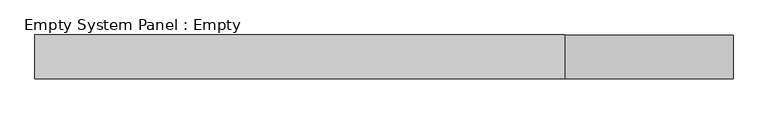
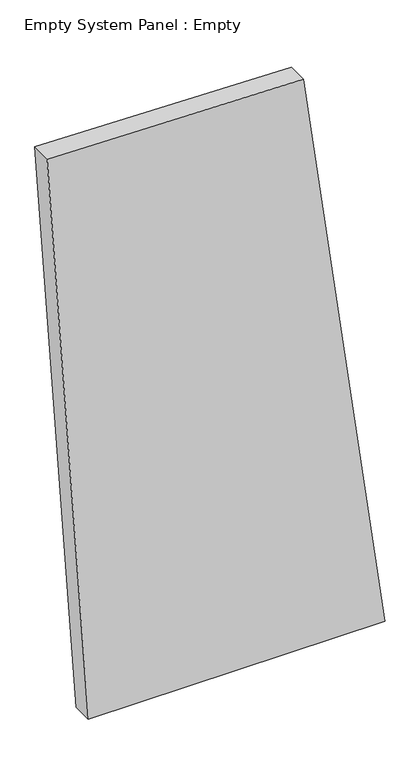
"""IFC4 building model written with IfcOpenShell, lengths in millimetres: plate geometry, Empty System Panel : Empty."""

import ifcopenshell
import ifcopenshell.guid

model = None  # the IFC model being written
_history = None  # IfcOwnerHistory: only IFC2X3 demands one
_inside = {}  # id of a spatial element -> (the spatial element, [elements in it])
_under = {}  # id of a project, library or spatial element -> (it, [spatial elements below it])
_declared = {}  # id of a project -> (the project, [libraries it declares])
_typed = {}  # id of a type object -> (the type object, [elements of that type])
_made_of = {}  # id of a material, layer set ... -> (it, [elements and type objects made of it])


def new_model(schema):
    """Start an empty IFC model of exactly this schema.

    Asked for "IFC4X3", IfcOpenShell would pick the latest addendum, in which some entities
    have other attributes; the version numbers below select the first issue.
    IFC2X3 requires an IfcOwnerHistory on every rooted entity: one is made here for all.
    """
    global model, _history
    if schema == "IFC4X3":
        model = ifcopenshell.file(schema_version=(4, 3, 0, 0))
    else:
        model = ifcopenshell.file(schema=schema)
    _inside.clear()
    _under.clear()
    _declared.clear()
    _typed.clear()
    _made_of.clear()
    _history = None
    if model.schema == "IFC2X3":
        org = make("IfcOrganization", Name="unknown")
        user = make(
            "IfcPersonAndOrganization",
            ThePerson=make("IfcPerson", FamilyName="unknown"),
            TheOrganization=org,
        )
        app = make(
            "IfcApplication",
            ApplicationDeveloper=org,
            Version="unknown",
            ApplicationFullName="unknown",
            ApplicationIdentifier="unknown",
        )
        _history = make(
            "IfcOwnerHistory",
            OwningUser=user,
            OwningApplication=app,
            ChangeAction="ADDED",
            CreationDate=0,
        )
    return model


def make(cls, **values):
    """One entity of the class cls with the attributes given. An attribute that is None is left unset."""
    return model.create_entity(
        cls, **{name: value for name, value in values.items() if value is not None}
    )


def rooted(cls, **values):
    """An entity with a GlobalId (a new one), such as an element, a storey or a relation."""
    return make(cls, GlobalId=ifcopenshell.guid.new(), OwnerHistory=_history, **values)


def si_unit(unit_type, name, prefix=None):
    """IfcSIUnit, for example si_unit("LENGTHUNIT", "METRE", prefix="MILLI")."""
    return make("IfcSIUnit", UnitType=unit_type, Prefix=prefix, Name=name)


def assignment(units):
    """IfcUnitAssignment: the units of a project."""
    return None if units is None else make("IfcUnitAssignment", Units=units)


def point(xyz):
    """IfcCartesianPoint."""
    return None if xyz is None else make("IfcCartesianPoint", Coordinates=xyz)


def direction(xyz):
    """IfcDirection."""
    return None if xyz is None else make("IfcDirection", DirectionRatios=xyz)


def frame(location, z_axis=None, x_axis=None):
    """IfcAxis2Placement3D, a coordinate frame: its origin and axes. An axis left out is left unset."""
    return make(
        "IfcAxis2Placement3D",
        Location=point(location),
        Axis=direction(z_axis),
        RefDirection=direction(x_axis),
    )


def origin():
    """The frame at (0, 0, 0) with its axes left unset."""
    return frame((0.0, 0.0, 0.0))


def place(relative_to, where):
    """IfcLocalPlacement: puts the frame where relative to a parent placement (None: the world)."""
    return make(
        "IfcLocalPlacement", PlacementRelTo=relative_to, RelativePlacement=where
    )


def context(
    kind, dimensions, precision=None, world=None, true_north=None, identifier=None
):
    """IfcGeometricRepresentationContext, for example the 3D "Model" context."""
    return make(
        "IfcGeometricRepresentationContext",
        ContextIdentifier=identifier,
        ContextType=kind,
        CoordinateSpaceDimension=dimensions,
        Precision=precision,
        WorldCoordinateSystem=world,
        TrueNorth=true_north,
    )


def project(units=None, contexts=None):
    """IfcProject with its units and contexts."""
    return rooted(
        "IfcProject",
        Name="project",
        RepresentationContexts=contexts,
        UnitsInContext=assignment(units),
    )


def spatial(cls, under=None, at=None, **own):
    """A site, building, storey or space (cls), placed at a placement, below another one or the project."""
    s = rooted(cls, ObjectPlacement=at, **own)
    if under is not None:
        _under.setdefault(under.id(), (under, []))[1].append(s)
    return s


def polyline(points):
    """IfcPolyline through the points."""
    return make("IfcPolyline", Points=[point(p) for p in points])


def outline(outer, holes=None, kind="AREA"):
    """IfcArbitraryClosedProfileDef: a profile drawn as a closed curve; with holes, ...WithVoids."""
    if holes is None:
        return make("IfcArbitraryClosedProfileDef", ProfileType=kind, OuterCurve=outer)
    return make(
        "IfcArbitraryProfileDefWithVoids",
        ProfileType=kind,
        OuterCurve=outer,
        InnerCurves=holes,
    )


def extrude(swept, where, along, depth):
    """IfcExtrudedAreaSolid: the profile swept, set in the frame where, extruded along a direction by depth."""
    return make(
        "IfcExtrudedAreaSolid",
        SweptArea=swept,
        Position=where,
        ExtrudedDirection=direction(along),
        Depth=depth,
    )


def shape(context_of_items, identifier, shape_type, items):
    """IfcShapeRepresentation: the items that make up one representation, for example the "Body"."""
    return make(
        "IfcShapeRepresentation",
        ContextOfItems=context_of_items,
        RepresentationIdentifier=identifier,
        RepresentationType=shape_type,
        Items=items,
    )


def source(mapping_origin, context_of_items, identifier, shape_type, items):
    """IfcRepresentationMap: a shape defined once, which mapped items show again and again."""
    return make(
        "IfcRepresentationMap",
        MappingOrigin=mapping_origin,
        MappedRepresentation=shape(context_of_items, identifier, shape_type, items),
    )


def transform(
    local_origin,
    x_axis=None,
    y_axis=None,
    z_axis=None,
    scale=None,
    scale2=None,
    scale3=None,
    uniform=True,
):
    """IfcCartesianTransformationOperator3D, or its non-uniform kind. x_axis, y_axis, z_axis: its Axis1, 2, 3."""
    if uniform:
        return make(
            "IfcCartesianTransformationOperator3D",
            Axis1=direction(x_axis),
            Axis2=direction(y_axis),
            LocalOrigin=point(local_origin),
            Scale=scale,
            Axis3=direction(z_axis),
        )
    return make(
        "IfcCartesianTransformationOperator3DnonUniform",
        Axis1=direction(x_axis),
        Axis2=direction(y_axis),
        LocalOrigin=point(local_origin),
        Scale=scale,
        Axis3=direction(z_axis),
        Scale2=scale2,
        Scale3=scale3,
    )


def mapped(mapping_source, mapping_target):
    """IfcMappedItem: shows the shape of a source again, moved by a transform."""
    return make(
        "IfcMappedItem", MappingSource=mapping_source, MappingTarget=mapping_target
    )


def made_of(thing, what):
    """Note that an element or type object is made of a material, layer set ...; save() writes the relation."""
    if what is not None:
        _made_of.setdefault(what.id(), (what, []))[1].append(thing)
    return thing


def element(
    cls,
    number,
    at=None,
    inside=None,
    cuts=None,
    type_object=None,
    material=None,
    context=None,
    identifier="Body",
    shape_type=None,
    held_by="IfcProductDefinitionShape",
    body=None,
    shapes=None,
    **own,
):
    """One element of the class cls, such as IfcWall. Its Tag is "e" and its number.

    at: its placement. inside: the storey or other place that contains it. cuts: it is an
    opening in that element (IfcRelVoidsElement). A single representation is given by context,
    identifier, shape_type and body (its items); several are given by shapes. held_by: the class
    of the entity that holds the representations. save() writes the other relations.
    """
    e = rooted(cls, Tag="e%d" % number, ObjectPlacement=at, **own)
    if body is not None:
        shapes = [shape(context, identifier, shape_type, body)]
    if shapes is not None:
        e.Representation = make(held_by, Representations=shapes)
    if inside is not None:
        _inside.setdefault(inside.id(), (inside, []))[1].append(e)
    if cuts is not None:
        rooted(
            "IfcRelVoidsElement", RelatingBuildingElement=cuts, RelatedOpeningElement=e
        )
    if type_object is not None:
        _typed.setdefault(type_object.id(), (type_object, []))[1].append(e)
    return made_of(e, material)


def aggregate(whole, parts):
    """IfcRelAggregates: a whole, such as a stair, and the parts it consists of."""
    return rooted("IfcRelAggregates", RelatingObject=whole, RelatedObjects=parts)


def save(model, path):
    """Write the relations noted so far, then the file.

    IfcRelAggregates (storeys below a building ...), IfcRelContainedInSpatialStructure (elements
    in a storey), IfcRelDefinesByType, IfcRelAssociatesMaterial and IfcRelDeclares: one each for
    every whole, place, type object, material and project.
    """
    for whole, parts in _under.values():
        aggregate(whole, parts)
    for where, things in _inside.values():
        rooted(
            "IfcRelContainedInSpatialStructure",
            RelatedElements=things,
            RelatingStructure=where,
        )
    for kind, things in _typed.values():
        rooted("IfcRelDefinesByType", RelatedObjects=things, RelatingType=kind)
    for what, things in _made_of.values():
        rooted("IfcRelAssociatesMaterial", RelatedObjects=things, RelatingMaterial=what)
    for by, libraries in _declared.values():
        rooted("IfcRelDeclares", RelatingContext=by, RelatedDefinitions=libraries)
    model.write(path)


def empty_system_panel_empty_42ebb15f(model_context):
    return source(origin(), model_context, "Body", "SweptSolid", [
        extrude(outline(polyline([(0.0, -613.3634002), (0.0, 811.8133915), (2886.6433573, 419.7574314), (2912.6400486, -811.8133915), (0.0, -613.3634002)])), frame((0.0, -50.8, 0.0), z_axis=(0.0, 1.0, 0.0), x_axis=(0.0, 0.0, 1.0)), (0.0, 0.0, 1.0), 101.6),
    ])


if __name__ == "__main__":
    model = new_model("IFC4")
    model_context = context("Model", 3, world=origin())
    ifc_project = project(units=[si_unit("LENGTHUNIT", "METRE", prefix="MILLI")], contexts=[model_context])
    site = spatial("IfcSite", under=ifc_project)
    building = spatial("IfcBuilding", under=site)
    placement = place(None, origin())
    empty_system_panel_empty_shape = empty_system_panel_empty_42ebb15f(model_context)
    element("IfcPlate", 1, ObjectType="Empty System Panel : Empty", at=placement, inside=building, context=model_context, shape_type="MappedRepresentation", body=[
        mapped(empty_system_panel_empty_shape, transform((0.0, 0.0, 0.0), x_axis=(1.0, 0.0, 0.0), y_axis=(0.0, 1.0, 0.0), z_axis=(0.0, 0.0, 1.0))),
    ])
    save(model, "model.ifc")
